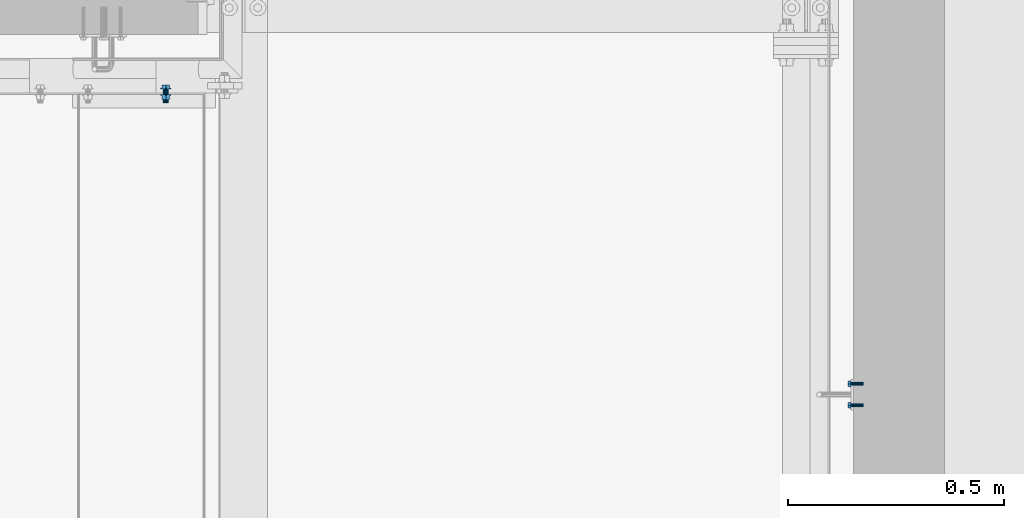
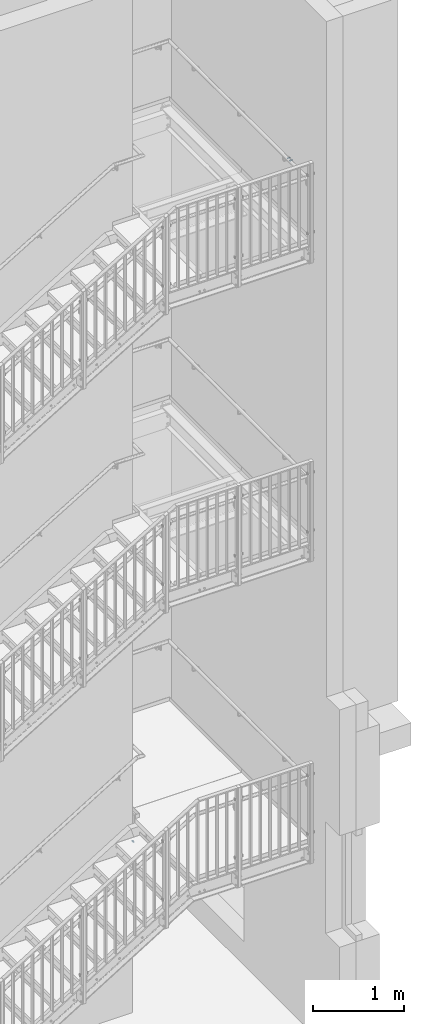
# One storey, part 303 of 410: 2 mechanical fasteners.
"""IFC2X3 building model written with IfcOpenShell, lengths in millimetres."""

from ifc_helpers import new_model, entity, si_unit, converted_unit, origin_with_axes, place, context, project, spatial, faceted_brep, element, save


model = new_model("IFC2X3")

# Units and contexts
model_context = context("Model", 3, precision=1e-09, world=origin_with_axes())
ifc_project = project(units=[si_unit("LENGTHUNIT", "METRE", prefix="MILLI"), si_unit("AREAUNIT", "SQUARE_METRE"), si_unit("VOLUMEUNIT", "CUBIC_METRE"), converted_unit("PLANEANGLEUNIT", "DEGREE", entity("IfcPlaneAngleMeasure", 0.01745329), si_unit("PLANEANGLEUNIT", "RADIAN"), dimensions=[0, 0, 0, 0, 0, 0, 0])], contexts=[model_context])

# Site, building, storey
site_placement = place(None, origin_with_axes())
site = spatial("IfcSite", under=ifc_project, at=site_placement, Name="mKR Teilneubau & Sanierung BA1 - Ostfildern", CompositionType="ELEMENT")
building_placement = place(site_placement, origin_with_axes())
building = spatial("IfcBuilding", under=site, at=building_placement, Name="Struktur 1", CompositionType="ELEMENT")
storey_placement = place(building_placement, origin_with_axes())
storey = spatial("IfcBuildingStorey", under=building, at=storey_placement, Name="Default Storey", CompositionType="ELEMENT", Elevation=0.0)

# Mechanical fasteners
mechanical_fastener_1_placement = place(None, origin_with_axes())
element("IfcMechanicalFastener", 1, at=mechanical_fastener_1_placement, inside=storey, ObjectType="Bolt", NominalDiameter=12.0, NominalLength=35.0, context=model_context, shape_type="Brep", body=[
    faceted_brep([(1688.0, 16731.499999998, -2379.4), (1688.0, 16728.999999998, -2379.4), (1688.230576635, 16728.999999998, -2377.058916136), (1688.230576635, 16731.499999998, -2377.058916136), (1688.91344561, 16728.999999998, -2374.807798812), (1688.91344561, 16731.499999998, -2374.807798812), (1690.022364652, 16728.999999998, -2372.733157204), (1690.022364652, 16731.499999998, -2372.733157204), (1691.514718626, 16728.999999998, -2370.914718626), (1691.514718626, 16731.499999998, -2370.914718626), (1693.333157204, 16728.999999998, -2369.422364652), (1693.333157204, 16731.499999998, -2369.422364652), (1695.407798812, 16728.999999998, -2368.31344561), (1695.407798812, 16731.499999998, -2368.31344561), (1697.658916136, 16728.999999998, -2367.630576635), (1697.658916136, 16731.499999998, -2367.630576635), (1700.0, 16728.999999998, -2367.4), (1700.0, 16731.499999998, -2367.4), (1702.341083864, 16728.999999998, -2367.630576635), (1702.341083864, 16731.499999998, -2367.630576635), (1704.592201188, 16728.999999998, -2368.31344561), (1704.592201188, 16731.499999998, -2368.31344561), (1706.666842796, 16728.999999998, -2369.422364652), (1706.666842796, 16731.499999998, -2369.422364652), (1708.485281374, 16728.999999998, -2370.914718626), (1708.485281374, 16731.499999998, -2370.914718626), (1709.977635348, 16728.999999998, -2372.733157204), (1709.977635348, 16731.499999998, -2372.733157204), (1711.08655439, 16728.999999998, -2374.807798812), (1711.08655439, 16731.499999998, -2374.807798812), (1711.769423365, 16728.999999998, -2377.058916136), (1711.769423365, 16731.499999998, -2377.058916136), (1712.0, 16728.999999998, -2379.4), (1712.0, 16731.499999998, -2379.4), (1711.769423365, 16728.999999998, -2381.741083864), (1711.769423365, 16731.499999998, -2381.741083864), (1711.08655439, 16728.999999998, -2383.992201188), (1711.08655439, 16731.499999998, -2383.992201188), (1709.977635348, 16728.999999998, -2386.066842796), (1709.977635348, 16731.499999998, -2386.066842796), (1708.485281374, 16728.999999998, -2387.885281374), (1708.485281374, 16731.499999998, -2387.885281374), (1706.666842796, 16728.999999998, -2389.377635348), (1706.666842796, 16731.499999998, -2389.377635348), (1704.592201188, 16728.999999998, -2390.48655439), (1704.592201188, 16731.499999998, -2390.48655439), (1702.341083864, 16728.999999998, -2391.169423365), (1702.341083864, 16731.499999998, -2391.169423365), (1700.0, 16728.999999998, -2391.4), (1700.0, 16731.499999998, -2391.4), (1697.658916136, 16728.999999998, -2391.169423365), (1697.658916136, 16731.499999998, -2391.169423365), (1695.407798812, 16728.999999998, -2390.48655439), (1695.407798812, 16731.499999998, -2390.48655439), (1693.333157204, 16728.999999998, -2389.377635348), (1693.333157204, 16731.499999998, -2389.377635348), (1691.514718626, 16728.999999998, -2387.885281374), (1691.514718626, 16731.499999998, -2387.885281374), (1690.022364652, 16728.999999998, -2386.066842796), (1690.022364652, 16731.499999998, -2386.066842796), (1688.91344561, 16728.999999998, -2383.992201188), (1688.91344561, 16731.499999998, -2383.992201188), (1688.230576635, 16728.999999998, -2381.741083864), (1688.230576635, 16731.499999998, -2381.741083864)], [[[0, 1, 2, 3]], [[3, 2, 4, 5]], [[5, 4, 6, 7]], [[7, 6, 8, 9]], [[9, 8, 10, 11]], [[11, 10, 12, 13]], [[13, 12, 14, 15]], [[15, 14, 16, 17]], [[17, 16, 18, 19]], [[19, 18, 20, 21]], [[21, 20, 22, 23]], [[23, 22, 24, 25]], [[25, 24, 26, 27]], [[27, 26, 28, 29]], [[29, 28, 30, 31]], [[31, 30, 32, 33]], [[33, 32, 34, 35]], [[35, 34, 36, 37]], [[37, 36, 38, 39]], [[39, 38, 40, 41]], [[41, 40, 42, 43]], [[43, 42, 44, 45]], [[45, 44, 46, 47]], [[47, 46, 48, 49]], [[49, 48, 50, 51]], [[51, 50, 52, 53]], [[53, 52, 54, 55]], [[55, 54, 56, 57]], [[57, 56, 58, 59]], [[59, 58, 60, 61]], [[61, 60, 62, 63]], [[63, 62, 1, 0]], [[0, 3, 5, 7, 9, 11, 13, 15, 17, 19, 21, 23, 25, 27, 29, 31, 33, 35, 37, 39, 41, 43, 45, 47, 49, 51, 53, 55, 57, 59, 61, 63]], [[1, 62, 60, 58, 56, 54, 52, 50, 48, 46, 44, 42, 40, 38, 36, 34, 32, 30, 28, 26, 24, 22, 20, 18, 16, 14, 12, 10, 8, 6, 4, 2]]]),
    faceted_brep([(1708.673244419, 16731.499999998, -2374.3925), (1708.673244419, 16738.999999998, -2374.3925), (1700.0, 16738.999999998, -2369.385), (1700.0, 16731.499999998, -2369.385), (1691.326755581, 16738.999999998, -2374.3925), (1691.326755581, 16731.499999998, -2374.3925), (1691.326755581, 16738.999999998, -2384.4075), (1691.326755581, 16731.499999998, -2384.4075), (1700.0, 16738.999999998, -2389.415), (1700.0, 16731.499999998, -2389.415), (1708.673244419, 16738.999999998, -2384.4075), (1708.673244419, 16731.499999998, -2384.4075)], [[[0, 1, 2, 3]], [[3, 2, 4, 5]], [[5, 4, 6, 7]], [[7, 6, 8, 9]], [[9, 8, 10, 11]], [[11, 10, 1, 0]], [[4, 2, 1, 10, 8, 6]], [[0, 3, 5, 7, 9, 11]]]),
    faceted_brep([(1694.0, 16728.999999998, -2379.4), (1694.0, 16716.999999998, -2379.4), (1694.456722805, 16716.999999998, -2377.103899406), (1694.456722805, 16728.999999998, -2377.103899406), (1695.757359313, 16716.999999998, -2375.157359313), (1695.757359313, 16728.999999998, -2375.157359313), (1697.703899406, 16716.999999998, -2373.856722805), (1697.703899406, 16728.999999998, -2373.856722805), (1700.0, 16716.999999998, -2373.4), (1700.0, 16728.999999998, -2373.4), (1702.296100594, 16716.999999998, -2373.856722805), (1702.296100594, 16728.999999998, -2373.856722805), (1704.242640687, 16716.999999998, -2375.157359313), (1704.242640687, 16728.999999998, -2375.157359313), (1705.543277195, 16716.999999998, -2377.103899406), (1705.543277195, 16728.999999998, -2377.103899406), (1706.0, 16716.999999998, -2379.4), (1706.0, 16728.999999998, -2379.4), (1705.543277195, 16716.999999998, -2381.696100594), (1705.543277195, 16728.999999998, -2381.696100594), (1704.242640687, 16716.999999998, -2383.642640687), (1704.242640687, 16728.999999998, -2383.642640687), (1702.296100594, 16716.999999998, -2384.943277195), (1702.296100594, 16728.999999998, -2384.943277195), (1700.0, 16716.999999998, -2385.4), (1700.0, 16728.999999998, -2385.4), (1697.703899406, 16716.999999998, -2384.943277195), (1697.703899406, 16728.999999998, -2384.943277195), (1695.757359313, 16716.999999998, -2383.642640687), (1695.757359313, 16728.999999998, -2383.642640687), (1694.456722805, 16716.999999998, -2381.696100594), (1694.456722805, 16728.999999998, -2381.696100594)], [[[0, 1, 2, 3]], [[3, 2, 4, 5]], [[5, 4, 6, 7]], [[7, 6, 8, 9]], [[9, 8, 10, 11]], [[11, 10, 12, 13]], [[13, 12, 14, 15]], [[15, 14, 16, 17]], [[17, 16, 18, 19]], [[19, 18, 20, 21]], [[21, 20, 22, 23]], [[23, 22, 24, 25]], [[25, 24, 26, 27]], [[27, 26, 28, 29]], [[29, 28, 30, 31]], [[31, 30, 1, 0]], [[0, 3, 5, 7, 9, 11, 13, 15, 17, 19, 21, 23, 25, 27, 29, 31]], [[1, 30, 28, 26, 24, 22, 20, 18, 16, 14, 12, 10, 8, 6, 4, 2]]]),
    faceted_brep([(1688.0, 16716.999999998, -2379.4), (1688.0, 16714.499999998, -2379.4), (1688.230576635, 16714.499999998, -2377.058916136), (1688.230576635, 16716.999999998, -2377.058916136), (1688.91344561, 16714.499999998, -2374.807798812), (1688.91344561, 16716.999999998, -2374.807798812), (1690.022364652, 16714.499999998, -2372.733157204), (1690.022364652, 16716.999999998, -2372.733157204), (1691.514718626, 16714.499999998, -2370.914718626), (1691.514718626, 16716.999999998, -2370.914718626), (1693.333157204, 16714.499999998, -2369.422364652), (1693.333157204, 16716.999999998, -2369.422364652), (1695.407798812, 16714.499999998, -2368.31344561), (1695.407798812, 16716.999999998, -2368.31344561), (1697.658916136, 16714.499999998, -2367.630576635), (1697.658916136, 16716.999999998, -2367.630576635), (1700.0, 16714.499999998, -2367.4), (1700.0, 16716.999999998, -2367.4), (1702.341083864, 16714.499999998, -2367.630576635), (1702.341083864, 16716.999999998, -2367.630576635), (1704.592201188, 16714.499999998, -2368.31344561), (1704.592201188, 16716.999999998, -2368.31344561), (1706.666842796, 16714.499999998, -2369.422364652), (1706.666842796, 16716.999999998, -2369.422364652), (1708.485281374, 16714.499999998, -2370.914718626), (1708.485281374, 16716.999999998, -2370.914718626), (1709.977635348, 16714.499999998, -2372.733157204), (1709.977635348, 16716.999999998, -2372.733157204), (1711.08655439, 16714.499999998, -2374.807798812), (1711.08655439, 16716.999999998, -2374.807798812), (1711.769423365, 16714.499999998, -2377.058916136), (1711.769423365, 16716.999999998, -2377.058916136), (1712.0, 16714.499999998, -2379.4), (1712.0, 16716.999999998, -2379.4), (1711.769423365, 16714.499999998, -2381.741083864), (1711.769423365, 16716.999999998, -2381.741083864), (1711.08655439, 16714.499999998, -2383.992201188), (1711.08655439, 16716.999999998, -2383.992201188), (1709.977635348, 16714.499999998, -2386.066842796), (1709.977635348, 16716.999999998, -2386.066842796), (1708.485281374, 16714.499999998, -2387.885281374), (1708.485281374, 16716.999999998, -2387.885281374), (1706.666842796, 16714.499999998, -2389.377635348), (1706.666842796, 16716.999999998, -2389.377635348), (1704.592201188, 16714.499999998, -2390.48655439), (1704.592201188, 16716.999999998, -2390.48655439), (1702.341083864, 16714.499999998, -2391.169423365), (1702.341083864, 16716.999999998, -2391.169423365), (1700.0, 16714.499999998, -2391.4), (1700.0, 16716.999999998, -2391.4), (1697.658916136, 16714.499999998, -2391.169423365), (1697.658916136, 16716.999999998, -2391.169423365), (1695.407798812, 16714.499999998, -2390.48655439), (1695.407798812, 16716.999999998, -2390.48655439), (1693.333157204, 16714.499999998, -2389.377635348), (1693.333157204, 16716.999999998, -2389.377635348), (1691.514718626, 16714.499999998, -2387.885281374), (1691.514718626, 16716.999999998, -2387.885281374), (1690.022364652, 16714.499999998, -2386.066842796), (1690.022364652, 16716.999999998, -2386.066842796), (1688.91344561, 16714.499999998, -2383.992201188), (1688.91344561, 16716.999999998, -2383.992201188), (1688.230576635, 16714.499999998, -2381.741083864), (1688.230576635, 16716.999999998, -2381.741083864)], [[[0, 1, 2, 3]], [[3, 2, 4, 5]], [[5, 4, 6, 7]], [[7, 6, 8, 9]], [[9, 8, 10, 11]], [[11, 10, 12, 13]], [[13, 12, 14, 15]], [[15, 14, 16, 17]], [[17, 16, 18, 19]], [[19, 18, 20, 21]], [[21, 20, 22, 23]], [[23, 22, 24, 25]], [[25, 24, 26, 27]], [[27, 26, 28, 29]], [[29, 28, 30, 31]], [[31, 30, 32, 33]], [[33, 32, 34, 35]], [[35, 34, 36, 37]], [[37, 36, 38, 39]], [[39, 38, 40, 41]], [[41, 40, 42, 43]], [[43, 42, 44, 45]], [[45, 44, 46, 47]], [[47, 46, 48, 49]], [[49, 48, 50, 51]], [[51, 50, 52, 53]], [[53, 52, 54, 55]], [[55, 54, 56, 57]], [[57, 56, 58, 59]], [[59, 58, 60, 61]], [[61, 60, 62, 63]], [[63, 62, 1, 0]], [[0, 3, 5, 7, 9, 11, 13, 15, 17, 19, 21, 23, 25, 27, 29, 31, 33, 35, 37, 39, 41, 43, 45, 47, 49, 51, 53, 55, 57, 59, 61, 63]], [[1, 62, 60, 58, 56, 54, 52, 50, 48, 46, 44, 42, 40, 38, 36, 34, 32, 30, 28, 26, 24, 22, 20, 18, 16, 14, 12, 10, 8, 6, 4, 2]]]),
    faceted_brep([(1709.13656801, 16704.499999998, -2374.125), (1709.13656801, 16714.499999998, -2374.125), (1700.0, 16714.499999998, -2368.85), (1700.0, 16704.499999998, -2368.85), (1690.86343199, 16714.499999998, -2374.125), (1690.86343199, 16704.499999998, -2374.125), (1690.86343199, 16714.499999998, -2384.675), (1690.86343199, 16704.499999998, -2384.675), (1700.0, 16714.499999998, -2389.95), (1700.0, 16704.499999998, -2389.95), (1709.13656801, 16714.499999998, -2384.675), (1709.13656801, 16704.499999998, -2384.675)], [[[0, 1, 2, 3]], [[3, 2, 4, 5]], [[5, 4, 6, 7]], [[7, 6, 8, 9]], [[9, 8, 10, 11]], [[11, 10, 1, 0]], [[4, 2, 1, 10, 8, 6]], [[0, 3, 5, 7, 9, 11]]]),
    faceted_brep([(1694.0, 16704.499999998, -2379.4), (1694.0, 16696.499999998, -2379.4), (1694.456722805, 16696.499999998, -2377.103899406), (1694.456722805, 16704.499999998, -2377.103899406), (1695.757359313, 16696.499999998, -2375.157359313), (1695.757359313, 16704.499999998, -2375.157359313), (1697.703899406, 16696.499999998, -2373.856722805), (1697.703899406, 16704.499999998, -2373.856722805), (1700.0, 16696.499999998, -2373.4), (1700.0, 16704.499999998, -2373.4), (1702.296100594, 16696.499999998, -2373.856722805), (1702.296100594, 16704.499999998, -2373.856722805), (1704.242640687, 16696.499999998, -2375.157359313), (1704.242640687, 16704.499999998, -2375.157359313), (1705.543277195, 16696.499999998, -2377.103899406), (1705.543277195, 16704.499999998, -2377.103899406), (1706.0, 16696.499999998, -2379.4), (1706.0, 16704.499999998, -2379.4), (1705.543277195, 16696.499999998, -2381.696100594), (1705.543277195, 16704.499999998, -2381.696100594), (1704.242640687, 16696.499999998, -2383.642640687), (1704.242640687, 16704.499999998, -2383.642640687), (1702.296100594, 16696.499999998, -2384.943277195), (1702.296100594, 16704.499999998, -2384.943277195), (1700.0, 16696.499999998, -2385.4), (1700.0, 16704.499999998, -2385.4), (1697.703899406, 16696.499999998, -2384.943277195), (1697.703899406, 16704.499999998, -2384.943277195), (1695.757359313, 16696.499999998, -2383.642640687), (1695.757359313, 16704.499999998, -2383.642640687), (1694.456722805, 16696.499999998, -2381.696100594), (1694.456722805, 16704.499999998, -2381.696100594)], [[[0, 1, 2, 3]], [[3, 2, 4, 5]], [[5, 4, 6, 7]], [[7, 6, 8, 9]], [[9, 8, 10, 11]], [[11, 10, 12, 13]], [[13, 12, 14, 15]], [[15, 14, 16, 17]], [[17, 16, 18, 19]], [[19, 18, 20, 21]], [[21, 20, 22, 23]], [[23, 22, 24, 25]], [[25, 24, 26, 27]], [[27, 26, 28, 29]], [[29, 28, 30, 31]], [[31, 30, 1, 0]], [[0, 3, 5, 7, 9, 11, 13, 15, 17, 19, 21, 23, 25, 27, 29, 31]], [[1, 30, 28, 26, 24, 22, 20, 18, 16, 14, 12, 10, 8, 6, 4, 2]]]),
])
mechanical_fastener_2_placement = place(None, origin_with_axes())
element("IfcMechanicalFastener", 2, at=mechanical_fastener_2_placement, inside=storey, ObjectType="-", NominalDiameter=8.0, NominalLength=30.0, context=model_context, shape_type="Brep", body=[
    faceted_brep([(3282.399216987, 16006.000030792, 6657.6), (3283.999216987, 16006.000030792, 6657.6), (3283.999216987, 16005.846313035, 6656.039277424), (3282.399216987, 16005.846313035, 6656.039277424), (3283.999216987, 16005.391067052, 6654.538532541), (3282.399216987, 16005.391067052, 6654.538532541), (3283.999216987, 16004.65178769, 6653.155438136), (3282.399216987, 16004.65178769, 6653.155438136), (3283.999216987, 16003.656885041, 6651.94314575), (3282.399216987, 16003.656885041, 6651.94314575), (3283.999216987, 16002.444592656, 6650.948243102), (3282.399216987, 16002.444592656, 6650.948243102), (3283.999216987, 16001.061498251, 6650.20896374), (3282.399216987, 16001.061498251, 6650.20896374), (3283.999216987, 15999.560753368, 6649.753717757), (3282.399216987, 15999.560753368, 6649.753717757), (3283.999216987, 15998.000030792, 6649.6), (3282.399216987, 15998.000030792, 6649.6), (3283.999216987, 15996.439308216, 6649.753717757), (3282.399216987, 15996.439308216, 6649.753717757), (3283.999216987, 15994.938563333, 6650.20896374), (3282.399216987, 15994.938563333, 6650.20896374), (3283.999216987, 15993.555468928, 6650.948243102), (3282.399216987, 15993.555468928, 6650.948243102), (3283.999216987, 15992.343176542, 6651.94314575), (3282.399216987, 15992.343176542, 6651.94314575), (3283.999216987, 15991.348273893, 6653.155438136), (3282.399216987, 15991.348273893, 6653.155438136), (3283.999216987, 15990.608994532, 6654.538532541), (3282.399216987, 15990.608994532, 6654.538532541), (3283.999216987, 15990.153748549, 6656.039277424), (3282.399216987, 15990.153748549, 6656.039277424), (3283.999216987, 15990.000030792, 6657.6), (3282.399216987, 15990.000030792, 6657.6), (3283.999216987, 15990.153748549, 6659.160722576), (3282.399216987, 15990.153748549, 6659.160722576), (3283.999216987, 15990.608994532, 6660.661467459), (3282.399216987, 15990.608994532, 6660.661467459), (3283.999216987, 15991.348273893, 6662.044561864), (3282.399216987, 15991.348273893, 6662.044561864), (3283.999216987, 15992.343176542, 6663.256854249), (3282.399216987, 15992.343176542, 6663.256854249), (3283.999216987, 15993.555468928, 6664.251756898), (3282.399216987, 15993.555468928, 6664.251756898), (3283.999216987, 15994.938563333, 6664.99103626), (3282.399216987, 15994.938563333, 6664.99103626), (3283.999216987, 15996.439308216, 6665.446282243), (3282.399216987, 15996.439308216, 6665.446282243), (3283.999216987, 15998.000030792, 6665.6), (3282.399216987, 15998.000030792, 6665.6), (3283.999216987, 15999.560753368, 6665.446282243), (3282.399216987, 15999.560753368, 6665.446282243), (3283.999216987, 16001.061498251, 6664.99103626), (3282.399216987, 16001.061498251, 6664.99103626), (3283.999216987, 16002.444592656, 6664.251756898), (3282.399216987, 16002.444592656, 6664.251756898), (3283.999216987, 16003.656885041, 6663.256854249), (3282.399216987, 16003.656885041, 6663.256854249), (3283.999216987, 16004.65178769, 6662.044561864), (3282.399216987, 16004.65178769, 6662.044561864), (3283.999216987, 16005.391067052, 6660.661467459), (3282.399216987, 16005.391067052, 6660.661467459), (3283.999216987, 16005.846313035, 6659.160722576), (3282.399216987, 16005.846313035, 6659.160722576)], [[[0, 1, 2, 3]], [[3, 2, 4, 5]], [[5, 4, 6, 7]], [[7, 6, 8, 9]], [[9, 8, 10, 11]], [[11, 10, 12, 13]], [[13, 12, 14, 15]], [[15, 14, 16, 17]], [[17, 16, 18, 19]], [[19, 18, 20, 21]], [[21, 20, 22, 23]], [[23, 22, 24, 25]], [[25, 24, 26, 27]], [[27, 26, 28, 29]], [[29, 28, 30, 31]], [[31, 30, 32, 33]], [[33, 32, 34, 35]], [[35, 34, 36, 37]], [[37, 36, 38, 39]], [[39, 38, 40, 41]], [[41, 40, 42, 43]], [[43, 42, 44, 45]], [[45, 44, 46, 47]], [[47, 46, 48, 49]], [[49, 48, 50, 51]], [[51, 50, 52, 53]], [[53, 52, 54, 55]], [[55, 54, 56, 57]], [[57, 56, 58, 59]], [[59, 58, 60, 61]], [[61, 60, 62, 63]], [[63, 62, 1, 0]], [[0, 3, 5, 7, 9, 11, 13, 15, 17, 19, 21, 23, 25, 27, 29, 31, 33, 35, 37, 39, 41, 43, 45, 47, 49, 51, 53, 55, 57, 59, 61, 63]], [[1, 62, 60, 58, 56, 54, 52, 50, 48, 46, 44, 42, 40, 38, 36, 34, 32, 30, 28, 26, 24, 22, 20, 18, 16, 14, 12, 10, 8, 6, 4, 2]]]),
    faceted_brep([(3282.399216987, 16056.000030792, 6657.6), (3283.999216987, 16056.000030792, 6657.6), (3283.999216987, 16055.846313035, 6656.039277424), (3282.399216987, 16055.846313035, 6656.039277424), (3283.999216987, 16055.391067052, 6654.538532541), (3282.399216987, 16055.391067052, 6654.538532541), (3283.999216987, 16054.65178769, 6653.155438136), (3282.399216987, 16054.65178769, 6653.155438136), (3283.999216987, 16053.656885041, 6651.94314575), (3282.399216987, 16053.656885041, 6651.94314575), (3283.999216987, 16052.444592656, 6650.948243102), (3282.399216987, 16052.444592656, 6650.948243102), (3283.999216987, 16051.061498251, 6650.20896374), (3282.399216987, 16051.061498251, 6650.20896374), (3283.999216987, 16049.560753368, 6649.753717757), (3282.399216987, 16049.560753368, 6649.753717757), (3283.999216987, 16048.000030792, 6649.6), (3282.399216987, 16048.000030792, 6649.6), (3283.999216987, 16046.439308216, 6649.753717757), (3282.399216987, 16046.439308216, 6649.753717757), (3283.999216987, 16044.938563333, 6650.20896374), (3282.399216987, 16044.938563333, 6650.20896374), (3283.999216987, 16043.555468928, 6650.948243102), (3282.399216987, 16043.555468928, 6650.948243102), (3283.999216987, 16042.343176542, 6651.94314575), (3282.399216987, 16042.343176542, 6651.94314575), (3283.999216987, 16041.348273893, 6653.155438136), (3282.399216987, 16041.348273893, 6653.155438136), (3283.999216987, 16040.608994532, 6654.538532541), (3282.399216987, 16040.608994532, 6654.538532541), (3283.999216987, 16040.153748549, 6656.039277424), (3282.399216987, 16040.153748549, 6656.039277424), (3283.999216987, 16040.000030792, 6657.6), (3282.399216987, 16040.000030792, 6657.6), (3283.999216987, 16040.153748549, 6659.160722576), (3282.399216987, 16040.153748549, 6659.160722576), (3283.999216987, 16040.608994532, 6660.661467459), (3282.399216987, 16040.608994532, 6660.661467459), (3283.999216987, 16041.348273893, 6662.044561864), (3282.399216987, 16041.348273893, 6662.044561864), (3283.999216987, 16042.343176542, 6663.256854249), (3282.399216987, 16042.343176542, 6663.256854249), (3283.999216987, 16043.555468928, 6664.251756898), (3282.399216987, 16043.555468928, 6664.251756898), (3283.999216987, 16044.938563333, 6664.99103626), (3282.399216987, 16044.938563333, 6664.99103626), (3283.999216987, 16046.439308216, 6665.446282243), (3282.399216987, 16046.439308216, 6665.446282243), (3283.999216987, 16048.000030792, 6665.6), (3282.399216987, 16048.000030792, 6665.6), (3283.999216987, 16049.560753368, 6665.446282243), (3282.399216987, 16049.560753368, 6665.446282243), (3283.999216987, 16051.061498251, 6664.99103626), (3282.399216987, 16051.061498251, 6664.99103626), (3283.999216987, 16052.444592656, 6664.251756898), (3282.399216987, 16052.444592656, 6664.251756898), (3283.999216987, 16053.656885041, 6663.256854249), (3282.399216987, 16053.656885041, 6663.256854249), (3283.999216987, 16054.65178769, 6662.044561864), (3282.399216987, 16054.65178769, 6662.044561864), (3283.999216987, 16055.391067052, 6660.661467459), (3282.399216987, 16055.391067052, 6660.661467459), (3283.999216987, 16055.846313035, 6659.160722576), (3282.399216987, 16055.846313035, 6659.160722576)], [[[0, 1, 2, 3]], [[3, 2, 4, 5]], [[5, 4, 6, 7]], [[7, 6, 8, 9]], [[9, 8, 10, 11]], [[11, 10, 12, 13]], [[13, 12, 14, 15]], [[15, 14, 16, 17]], [[17, 16, 18, 19]], [[19, 18, 20, 21]], [[21, 20, 22, 23]], [[23, 22, 24, 25]], [[25, 24, 26, 27]], [[27, 26, 28, 29]], [[29, 28, 30, 31]], [[31, 30, 32, 33]], [[33, 32, 34, 35]], [[35, 34, 36, 37]], [[37, 36, 38, 39]], [[39, 38, 40, 41]], [[41, 40, 42, 43]], [[43, 42, 44, 45]], [[45, 44, 46, 47]], [[47, 46, 48, 49]], [[49, 48, 50, 51]], [[51, 50, 52, 53]], [[53, 52, 54, 55]], [[55, 54, 56, 57]], [[57, 56, 58, 59]], [[59, 58, 60, 61]], [[61, 60, 62, 63]], [[63, 62, 1, 0]], [[0, 3, 5, 7, 9, 11, 13, 15, 17, 19, 21, 23, 25, 27, 29, 31, 33, 35, 37, 39, 41, 43, 45, 47, 49, 51, 53, 55, 57, 59, 61, 63]], [[1, 62, 60, 58, 56, 54, 52, 50, 48, 46, 44, 42, 40, 38, 36, 34, 32, 30, 28, 26, 24, 22, 20, 18, 16, 14, 12, 10, 8, 6, 4, 2]]]),
    faceted_brep([(3282.399216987, 15991.773308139, 6654.005), (3277.099216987, 15991.773308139, 6654.005), (3277.099216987, 15998.000030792, 6650.41), (3282.399216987, 15998.000030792, 6650.41), (3277.099216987, 16004.226753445, 6654.005), (3282.399216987, 16004.226753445, 6654.005), (3277.099216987, 16004.226753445, 6661.195), (3282.399216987, 16004.226753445, 6661.195), (3277.099216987, 15998.000030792, 6664.79), (3282.399216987, 15998.000030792, 6664.79), (3277.099216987, 15991.773308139, 6661.195), (3282.399216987, 15991.773308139, 6661.195)], [[[0, 1, 2, 3]], [[3, 2, 4, 5]], [[5, 4, 6, 7]], [[7, 6, 8, 9]], [[9, 8, 10, 11]], [[11, 10, 1, 0]], [[4, 2, 1, 10, 8, 6]], [[0, 3, 5, 7, 9, 11]]]),
    faceted_brep([(3282.399216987, 16041.773308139, 6654.005), (3277.099216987, 16041.773308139, 6654.005), (3277.099216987, 16048.000030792, 6650.41), (3282.399216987, 16048.000030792, 6650.41), (3277.099216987, 16054.226753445, 6654.005), (3282.399216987, 16054.226753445, 6654.005), (3277.099216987, 16054.226753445, 6661.195), (3282.399216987, 16054.226753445, 6661.195), (3277.099216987, 16048.000030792, 6664.79), (3282.399216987, 16048.000030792, 6664.79), (3277.099216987, 16041.773308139, 6661.195), (3282.399216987, 16041.773308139, 6661.195)], [[[0, 1, 2, 3]], [[3, 2, 4, 5]], [[5, 4, 6, 7]], [[7, 6, 8, 9]], [[9, 8, 10, 11]], [[11, 10, 1, 0]], [[4, 2, 1, 10, 8, 6]], [[0, 3, 5, 7, 9, 11]]]),
    faceted_brep([(3283.999216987, 16002.000030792, 6657.6), (3293.999216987, 16002.000030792, 6657.6), (3293.999216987, 16001.695548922, 6656.069266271), (3283.999216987, 16001.695548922, 6656.069266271), (3293.999216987, 16000.828457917, 6654.771572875), (3283.999216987, 16000.828457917, 6654.771572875), (3293.999216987, 15999.530764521, 6653.90448187), (3283.999216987, 15999.530764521, 6653.90448187), (3293.999216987, 15998.000030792, 6653.6), (3283.999216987, 15998.000030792, 6653.6), (3293.999216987, 15996.469297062, 6653.90448187), (3283.999216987, 15996.469297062, 6653.90448187), (3293.999216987, 15995.171603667, 6654.771572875), (3283.999216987, 15995.171603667, 6654.771572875), (3293.999216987, 15994.304512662, 6656.069266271), (3283.999216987, 15994.304512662, 6656.069266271), (3293.999216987, 15994.000030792, 6657.6), (3283.999216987, 15994.000030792, 6657.6), (3293.999216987, 15994.304512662, 6659.130733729), (3283.999216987, 15994.304512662, 6659.130733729), (3293.999216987, 15995.171603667, 6660.428427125), (3283.999216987, 15995.171603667, 6660.428427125), (3293.999216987, 15996.469297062, 6661.29551813), (3283.999216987, 15996.469297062, 6661.29551813), (3293.999216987, 15998.000030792, 6661.6), (3283.999216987, 15998.000030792, 6661.6), (3293.999216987, 15999.530764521, 6661.29551813), (3283.999216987, 15999.530764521, 6661.29551813), (3293.999216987, 16000.828457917, 6660.428427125), (3283.999216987, 16000.828457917, 6660.428427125), (3293.999216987, 16001.695548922, 6659.130733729), (3283.999216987, 16001.695548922, 6659.130733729)], [[[0, 1, 2, 3]], [[3, 2, 4, 5]], [[5, 4, 6, 7]], [[7, 6, 8, 9]], [[9, 8, 10, 11]], [[11, 10, 12, 13]], [[13, 12, 14, 15]], [[15, 14, 16, 17]], [[17, 16, 18, 19]], [[19, 18, 20, 21]], [[21, 20, 22, 23]], [[23, 22, 24, 25]], [[25, 24, 26, 27]], [[27, 26, 28, 29]], [[29, 28, 30, 31]], [[31, 30, 1, 0]], [[0, 3, 5, 7, 9, 11, 13, 15, 17, 19, 21, 23, 25, 27, 29, 31]], [[1, 30, 28, 26, 24, 22, 20, 18, 16, 14, 12, 10, 8, 6, 4, 2]]]),
    faceted_brep([(3283.999216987, 16052.000030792, 6657.6), (3293.999216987, 16052.000030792, 6657.6), (3293.999216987, 16051.695548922, 6656.069266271), (3283.999216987, 16051.695548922, 6656.069266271), (3293.999216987, 16050.828457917, 6654.771572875), (3283.999216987, 16050.828457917, 6654.771572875), (3293.999216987, 16049.530764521, 6653.90448187), (3283.999216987, 16049.530764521, 6653.90448187), (3293.999216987, 16048.000030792, 6653.6), (3283.999216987, 16048.000030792, 6653.6), (3293.999216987, 16046.469297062, 6653.90448187), (3283.999216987, 16046.469297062, 6653.90448187), (3293.999216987, 16045.171603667, 6654.771572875), (3283.999216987, 16045.171603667, 6654.771572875), (3293.999216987, 16044.304512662, 6656.069266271), (3283.999216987, 16044.304512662, 6656.069266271), (3293.999216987, 16044.000030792, 6657.6), (3283.999216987, 16044.000030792, 6657.6), (3293.999216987, 16044.304512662, 6659.130733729), (3283.999216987, 16044.304512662, 6659.130733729), (3293.999216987, 16045.171603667, 6660.428427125), (3283.999216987, 16045.171603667, 6660.428427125), (3293.999216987, 16046.469297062, 6661.29551813), (3283.999216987, 16046.469297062, 6661.29551813), (3293.999216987, 16048.000030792, 6661.6), (3283.999216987, 16048.000030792, 6661.6), (3293.999216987, 16049.530764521, 6661.29551813), (3283.999216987, 16049.530764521, 6661.29551813), (3293.999216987, 16050.828457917, 6660.428427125), (3283.999216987, 16050.828457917, 6660.428427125), (3293.999216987, 16051.695548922, 6659.130733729), (3283.999216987, 16051.695548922, 6659.130733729)], [[[0, 1, 2, 3]], [[3, 2, 4, 5]], [[5, 4, 6, 7]], [[7, 6, 8, 9]], [[9, 8, 10, 11]], [[11, 10, 12, 13]], [[13, 12, 14, 15]], [[15, 14, 16, 17]], [[17, 16, 18, 19]], [[19, 18, 20, 21]], [[21, 20, 22, 23]], [[23, 22, 24, 25]], [[25, 24, 26, 27]], [[27, 26, 28, 29]], [[29, 28, 30, 31]], [[31, 30, 1, 0]], [[0, 3, 5, 7, 9, 11, 13, 15, 17, 19, 21, 23, 25, 27, 29, 31]], [[1, 30, 28, 26, 24, 22, 20, 18, 16, 14, 12, 10, 8, 6, 4, 2]]]),
    faceted_brep([(3293.999216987, 16002.000030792, 6657.6), (3312.399216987, 16002.000030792, 6657.6), (3312.399216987, 16001.695548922, 6656.069266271), (3293.999216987, 16001.695548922, 6656.069266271), (3312.399216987, 16000.828457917, 6654.771572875), (3293.999216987, 16000.828457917, 6654.771572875), (3312.399216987, 15999.530764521, 6653.90448187), (3293.999216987, 15999.530764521, 6653.90448187), (3312.399216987, 15998.000030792, 6653.6), (3293.999216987, 15998.000030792, 6653.6), (3312.399216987, 15996.469297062, 6653.90448187), (3293.999216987, 15996.469297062, 6653.90448187), (3312.399216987, 15995.171603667, 6654.771572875), (3293.999216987, 15995.171603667, 6654.771572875), (3312.399216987, 15994.304512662, 6656.069266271), (3293.999216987, 15994.304512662, 6656.069266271), (3312.399216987, 15994.000030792, 6657.6), (3293.999216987, 15994.000030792, 6657.6), (3312.399216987, 15994.304512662, 6659.130733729), (3293.999216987, 15994.304512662, 6659.130733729), (3312.399216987, 15995.171603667, 6660.428427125), (3293.999216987, 15995.171603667, 6660.428427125), (3312.399216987, 15996.469297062, 6661.29551813), (3293.999216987, 15996.469297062, 6661.29551813), (3312.399216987, 15998.000030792, 6661.6), (3293.999216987, 15998.000030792, 6661.6), (3312.399216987, 15999.530764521, 6661.29551813), (3293.999216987, 15999.530764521, 6661.29551813), (3312.399216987, 16000.828457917, 6660.428427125), (3293.999216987, 16000.828457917, 6660.428427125), (3312.399216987, 16001.695548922, 6659.130733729), (3293.999216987, 16001.695548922, 6659.130733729)], [[[0, 1, 2, 3]], [[3, 2, 4, 5]], [[5, 4, 6, 7]], [[7, 6, 8, 9]], [[9, 8, 10, 11]], [[11, 10, 12, 13]], [[13, 12, 14, 15]], [[15, 14, 16, 17]], [[17, 16, 18, 19]], [[19, 18, 20, 21]], [[21, 20, 22, 23]], [[23, 22, 24, 25]], [[25, 24, 26, 27]], [[27, 26, 28, 29]], [[29, 28, 30, 31]], [[31, 30, 1, 0]], [[0, 3, 5, 7, 9, 11, 13, 15, 17, 19, 21, 23, 25, 27, 29, 31]], [[1, 30, 28, 26, 24, 22, 20, 18, 16, 14, 12, 10, 8, 6, 4, 2]]]),
    faceted_brep([(3293.999216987, 16052.000030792, 6657.6), (3312.399216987, 16052.000030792, 6657.6), (3312.399216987, 16051.695548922, 6656.069266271), (3293.999216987, 16051.695548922, 6656.069266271), (3312.399216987, 16050.828457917, 6654.771572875), (3293.999216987, 16050.828457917, 6654.771572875), (3312.399216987, 16049.530764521, 6653.90448187), (3293.999216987, 16049.530764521, 6653.90448187), (3312.399216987, 16048.000030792, 6653.6), (3293.999216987, 16048.000030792, 6653.6), (3312.399216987, 16046.469297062, 6653.90448187), (3293.999216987, 16046.469297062, 6653.90448187), (3312.399216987, 16045.171603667, 6654.771572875), (3293.999216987, 16045.171603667, 6654.771572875), (3312.399216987, 16044.304512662, 6656.069266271), (3293.999216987, 16044.304512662, 6656.069266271), (3312.399216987, 16044.000030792, 6657.6), (3293.999216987, 16044.000030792, 6657.6), (3312.399216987, 16044.304512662, 6659.130733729), (3293.999216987, 16044.304512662, 6659.130733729), (3312.399216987, 16045.171603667, 6660.428427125), (3293.999216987, 16045.171603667, 6660.428427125), (3312.399216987, 16046.469297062, 6661.29551813), (3293.999216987, 16046.469297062, 6661.29551813), (3312.399216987, 16048.000030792, 6661.6), (3293.999216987, 16048.000030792, 6661.6), (3312.399216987, 16049.530764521, 6661.29551813), (3293.999216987, 16049.530764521, 6661.29551813), (3312.399216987, 16050.828457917, 6660.428427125), (3293.999216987, 16050.828457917, 6660.428427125), (3312.399216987, 16051.695548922, 6659.130733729), (3293.999216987, 16051.695548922, 6659.130733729)], [[[0, 1, 2, 3]], [[3, 2, 4, 5]], [[5, 4, 6, 7]], [[7, 6, 8, 9]], [[9, 8, 10, 11]], [[11, 10, 12, 13]], [[13, 12, 14, 15]], [[15, 14, 16, 17]], [[17, 16, 18, 19]], [[19, 18, 20, 21]], [[21, 20, 22, 23]], [[23, 22, 24, 25]], [[25, 24, 26, 27]], [[27, 26, 28, 29]], [[29, 28, 30, 31]], [[31, 30, 1, 0]], [[0, 3, 5, 7, 9, 11, 13, 15, 17, 19, 21, 23, 25, 27, 29, 31]], [[1, 30, 28, 26, 24, 22, 20, 18, 16, 14, 12, 10, 8, 6, 4, 2]]]),
])

save(model, "model.ifc")
